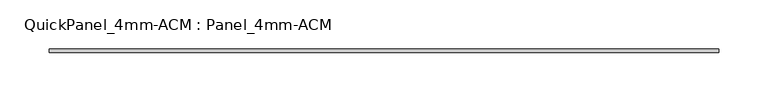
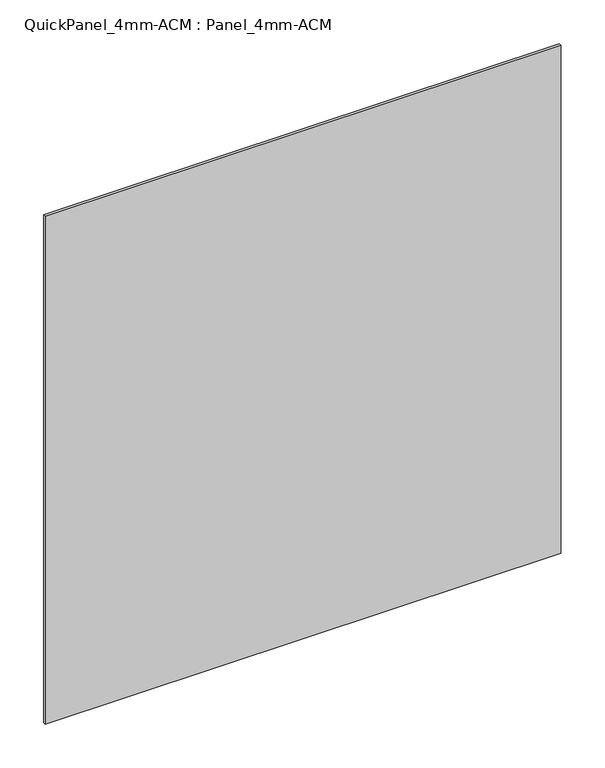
"""IFC4 building model written with IfcOpenShell, lengths in millimetres: plate geometry, QuickPanel_4mm-ACM : Panel_4mm-ACM."""

from ifc_helpers import new_model, si_unit, origin, origin_with_axes, place, context, project, spatial, polyline, outline, extrude, source, transform, mapped, element, save


def quickpanel_4mm_acm_panel_4mm_acm_fba89c42(model_context):
    return source(origin(), model_context, "Body", "SweptSolid", [
        extrude(outline(polyline([(-341.1618133, -6.096), (341.1618133, -6.096), (341.1618133, -9.906), (-341.1618133, -9.906), (-341.1618133, -6.096)])), origin_with_axes(), (0.0, 0.0, 1.0), 710.2391547),
    ])


if __name__ == "__main__":
    model = new_model("IFC4")
    model_context = context("Model", 3, world=origin())
    ifc_project = project(units=[si_unit("LENGTHUNIT", "METRE", prefix="MILLI")], contexts=[model_context])
    site = spatial("IfcSite", under=ifc_project)
    building = spatial("IfcBuilding", under=site)
    placement = place(None, origin())
    quickpanel_4mm_acm_panel_4mm_acm_shape = quickpanel_4mm_acm_panel_4mm_acm_fba89c42(model_context)
    element("IfcPlate", 1, ObjectType="QuickPanel_4mm-ACM : Panel_4mm-ACM", at=placement, inside=building, context=model_context, shape_type="MappedRepresentation", body=[
        mapped(quickpanel_4mm_acm_panel_4mm_acm_shape, transform((0.0, 0.0, 0.0), x_axis=(1.0, 0.0, 0.0), y_axis=(0.0, 1.0, 0.0), z_axis=(0.0, 0.0, 1.0))),
    ])
    save(model, "model.ifc")
